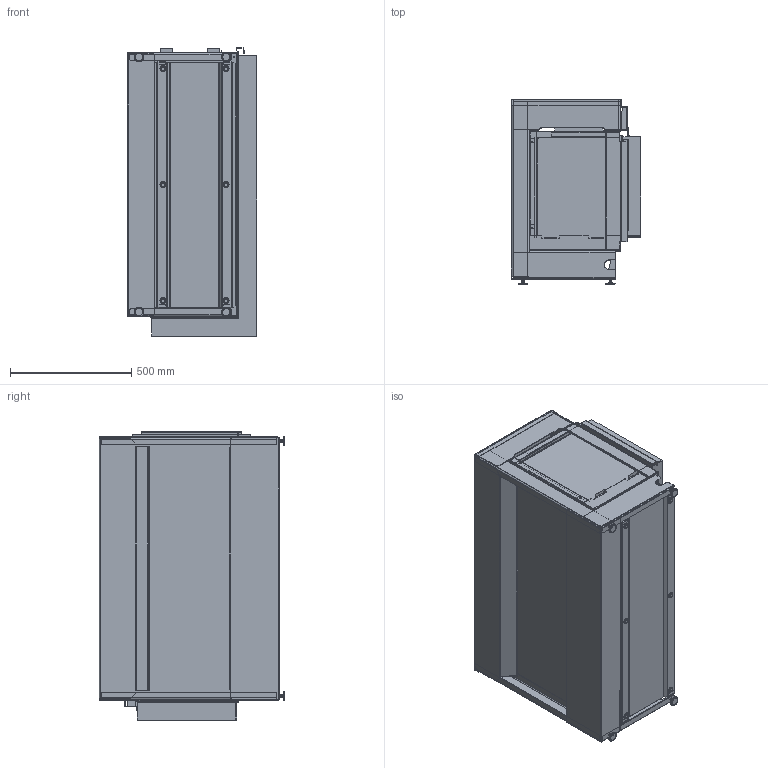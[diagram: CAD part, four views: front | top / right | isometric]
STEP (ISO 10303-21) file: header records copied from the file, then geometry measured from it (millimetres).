
FILE_DESCRIPTION (( 'STEP AP214' ), '1' );
FILE_NAME ('Faber e-MatriX 1050x400 IIR_defeature.STEP', '2022-05-31T11:57:43', ( '' ), ( '' ), 'SwSTEP 2.0', 'SolidWorks 2021', '' );
FILE_SCHEMA (( 'AUTOMOTIVE_DESIGN' ));
Length unit declared in the file: millimetre
Products named in the file (1): Faber e-MatriX 1050x400 IIR_defeature
Bounding box: 533.5 x 765.41 x 1189.5 mm (x, y, z)
Volume: 11704050.1 mm3; surface area: 11376431.8 mm2
Topology: 30 solids, 30 shells, 2052 faces, 5116 edges, 3122 vertices
Faces by surface type: plane 1156, cylinder 682, bspline 138, cone 44, torus 32
Entity records: 75574 total; most frequent: CARTESIAN_POINT 27702, ORIENTED_EDGE 10232, DIRECTION 9476, EDGE_CURVE 5116, VECTOR 3346, LINE 3346, VERTEX_POINT 3122, AXIS2_PLACEMENT_3D 3065
